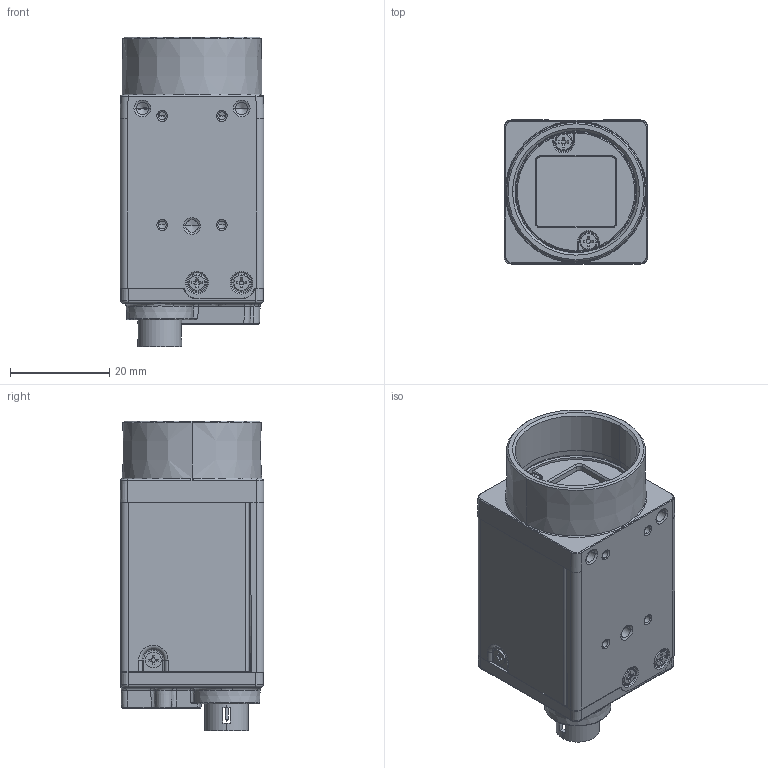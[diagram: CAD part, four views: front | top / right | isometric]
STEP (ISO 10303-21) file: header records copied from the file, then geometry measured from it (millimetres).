
FILE_DESCRIPTION((''),'2;1');
FILE_NAME('DH9-RDI000304-62322222','2024-05-16T10:47:32',('21511'),(''),'CREO PARAMETRIC BY PTC INC, 2020184','CREO PARAMETRIC BY PTC INC, 2020184','');
FILE_SCHEMA(('CONFIG_CONTROL_DESIGN','SHAPE_APPEARANCE_LAYERS_GROUPS'));
Products named in the file (1): DH9-RDI000304-62322222
Bounding box: 29 x 29 x 62.5 mm (x, y, z)
Volume: 36695.7 mm3; surface area: 14608.1 mm2
Topology: 1 solids, 12 shells, 1758 faces, 4838 edges, 3077 vertices
Faces by surface type: plane 1040, cylinder 414, cone 145, bspline 68, torus 55, extrusion 19, sphere 17
Entity records: 74214 total; most frequent: CARTESIAN_POINT 14774, ORIENTED_EDGE 9568, DIRECTION 8721, PRESENTATION_STYLE_ASSIGNMENT 4886, STYLED_ITEM 4785, CURVE_STYLE 4784, EDGE_CURVE 4784, VECTOR 3369
